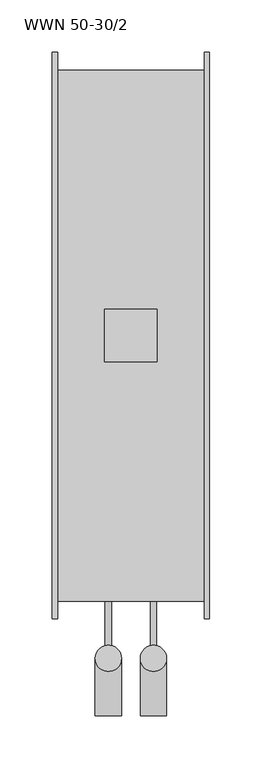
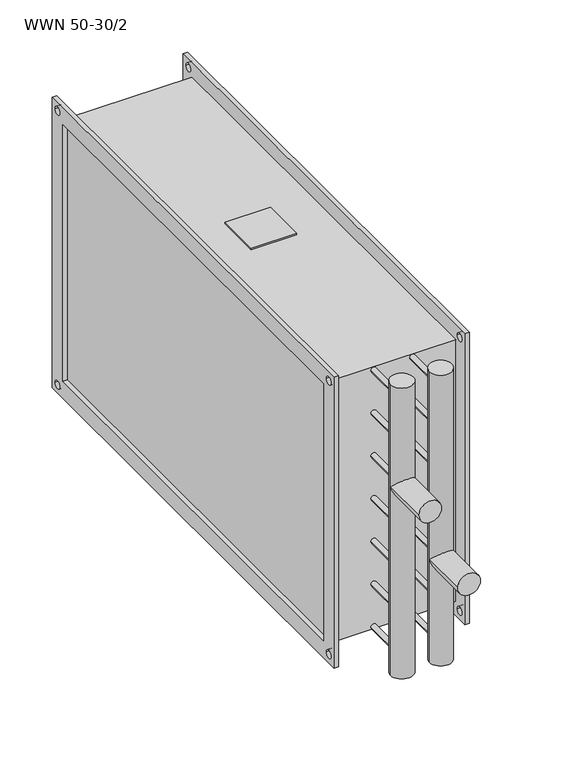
"""IFC4 building model written with IfcOpenShell, lengths in millimetres: proxy geometry, KORF_Нагреватель_Водяной_WWN : WWN 50-30/2."""

from ifc_helpers import new_model, si_unit, point, frame, frame_2d, origin, place, context, project, spatial, polyline, circle_curve, ellipse_curve, trimmed, segment, composite_curve, outline, extrude, source, transform, mapped, element, save
from ifc_brep_helpers import plane_surface, cylinder_surface, advanced_brep


def wwn_50_30_2_9f387721(model_context):
    return source(origin(), model_context, "Body", "SolidModel", [
        extrude(outline(polyline([(50.0, -25.0), (50.0, 25.0), (100.0, 25.0), (100.0, -25.0), (50.0, -25.0)])), frame((0.0, 0.0, 153.0), z_axis=(0.0, 0.0, 1.0), x_axis=(1.0, 0.0, 0.0)), (0.0, 0.0, 1.0), 2.0),
        extrude(outline(polyline([(-270.0, 170.0), (270.0, 170.0), (270.0, -170.0), (-270.0, -170.0), (-270.0, 170.0)]), holes=[polyline([(-250.0, 150.0), (-250.0, -150.0), (250.0, -150.0), (250.0, 150.0), (-250.0, 150.0)]), composite_curve([segment(trimmed(circle_curve(frame_2d((260.0, 160.0)), 4.5), [point((255.5, 160.0))], [point((264.5, 160.0))], True, "CARTESIAN"), True, "CONTINUOUS"), segment(trimmed(circle_curve(frame_2d((260.0, 160.0)), 4.5), [point((264.5, 160.0))], [point((255.5, 160.0))], True, "CARTESIAN"), True, "CONTINUOUS")], self_intersect=False), composite_curve([segment(trimmed(circle_curve(frame_2d((-260.0, 160.0)), 4.5), [point((-264.5, 160.0))], [point((-255.5, 160.0))], True, "CARTESIAN"), True, "CONTINUOUS"), segment(trimmed(circle_curve(frame_2d((-260.0, 160.0)), 4.5), [point((-255.5, 160.0))], [point((-264.5, 160.0))], True, "CARTESIAN"), True, "CONTINUOUS")], self_intersect=False), composite_curve([segment(trimmed(circle_curve(frame_2d((-260.0, -160.0)), 4.5), [point((-264.5, -160.0))], [point((-255.5, -160.0))], True, "CARTESIAN"), True, "CONTINUOUS"), segment(trimmed(circle_curve(frame_2d((-260.0, -160.0)), 4.5), [point((-255.5, -160.0))], [point((-264.5, -160.0))], True, "CARTESIAN"), True, "CONTINUOUS")], self_intersect=False), composite_curve([segment(trimmed(circle_curve(frame_2d((260.0, -160.0)), 4.5), [point((255.5, -160.0))], [point((264.5, -160.0))], True, "CARTESIAN"), True, "CONTINUOUS"), segment(trimmed(circle_curve(frame_2d((260.0, -160.0)), 4.5), [point((264.5, -160.0))], [point((255.5, -160.0))], True, "CARTESIAN"), True, "CONTINUOUS")], self_intersect=False)]), frame((145.0, 0.0, 0.0), z_axis=(1.0, 0.0, 0.0), x_axis=(0.0, 1.0, 0.0)), (0.0, 0.0, 1.0), 5.0),
        extrude(outline(polyline([(-270.0, 170.0), (270.0, 170.0), (270.0, -170.0), (-270.0, -170.0), (-270.0, 170.0)]), holes=[polyline([(-250.0, 150.0), (-250.0, -150.0), (250.0, -150.0), (250.0, 150.0), (-250.0, 150.0)]), composite_curve([segment(trimmed(circle_curve(frame_2d((260.0, 160.0)), 4.5), [point((255.5, 160.0))], [point((264.5, 160.0))], True, "CARTESIAN"), True, "CONTINUOUS"), segment(trimmed(circle_curve(frame_2d((260.0, 160.0)), 4.5), [point((264.5, 160.0))], [point((255.5, 160.0))], True, "CARTESIAN"), True, "CONTINUOUS")], self_intersect=False), composite_curve([segment(trimmed(circle_curve(frame_2d((-260.0, 160.0)), 4.5), [point((-264.5, 160.0))], [point((-255.5, 160.0))], True, "CARTESIAN"), True, "CONTINUOUS"), segment(trimmed(circle_curve(frame_2d((-260.0, 160.0)), 4.5), [point((-255.5, 160.0))], [point((-264.5, 160.0))], True, "CARTESIAN"), True, "CONTINUOUS")], self_intersect=False), composite_curve([segment(trimmed(circle_curve(frame_2d((-260.0, -160.0)), 4.5), [point((-264.5, -160.0))], [point((-255.5, -160.0))], True, "CARTESIAN"), True, "CONTINUOUS"), segment(trimmed(circle_curve(frame_2d((-260.0, -160.0)), 4.5), [point((-255.5, -160.0))], [point((-264.5, -160.0))], True, "CARTESIAN"), True, "CONTINUOUS")], self_intersect=False), composite_curve([segment(trimmed(circle_curve(frame_2d((260.0, -160.0)), 4.5), [point((255.5, -160.0))], [point((264.5, -160.0))], True, "CARTESIAN"), True, "CONTINUOUS"), segment(trimmed(circle_curve(frame_2d((260.0, -160.0)), 4.5), [point((264.5, -160.0))], [point((255.5, -160.0))], True, "CARTESIAN"), True, "CONTINUOUS")], self_intersect=False)]), frame((0.0, 0.0, 0.0), z_axis=(1.0, 0.0, 0.0), x_axis=(0.0, 1.0, 0.0)), (0.0, 0.0, 1.0), 5.0),
        extrude(outline(polyline([(145.0, 253.0), (145.0, -253.0), (5.0, -253.0), (5.0, 253.0), (145.0, 253.0)])), frame((0.0, 0.0, -153.0), z_axis=(0.0, 0.0, 1.0), x_axis=(1.0, 0.0, 0.0)), (0.0, 0.0, 1.0), 306.0),
        advanced_brep(
        [(41.0, -362.0, 50.0), (66.0, -362.0, 50.0), (41.0, -307.5, 50.0), (66.0, -307.5, 50.0), (41.0, -307.5, 170.0), (66.0, -307.5, 170.0), (41.0, -307.5, -170.0), (66.0, -307.5, -170.0)],
        [
            (0, 1, circle_curve(frame((53.5, -362.0, 50.0), z_axis=(0.0, -1.0, 0.0), x_axis=(1.0, 0.0, 0.0)), 12.5)),
            (1, 0, circle_curve(frame((53.5, -362.0, 50.0), z_axis=(0.0, -1.0, 0.0), x_axis=(1.0, 0.0, 0.0)), 12.5)),
            (0, 2),
            (2, 3, ellipse_curve(frame((53.5, -307.5, 50.0), z_axis=(0.0, -0.7071067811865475, 0.7071067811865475), x_axis=(0.0, -0.7071067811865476, -0.7071067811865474)), 17.6776695, 12.5)),
            (3, 1),
            (3, 2, ellipse_curve(frame((53.5, -307.5, 50.0), z_axis=(0.0, -0.7071067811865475, -0.7071067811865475), x_axis=(0.0, -0.7071067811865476, 0.7071067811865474)), 17.6776695, 12.5)),
            (4, 5, circle_curve(frame((53.5, -307.5, 170.0), z_axis=(0.0, 0.0, 1.0), x_axis=(1.0, 0.0, 0.0)), 12.5)),
            (5, 4, circle_curve(frame((53.5, -307.5, 170.0), z_axis=(0.0, 0.0, 1.0), x_axis=(1.0, 0.0, 0.0)), 12.5)),
            (6, 7, circle_curve(frame((53.5, -307.5, -170.0), z_axis=(0.0, 0.0, -1.0), x_axis=(1.0, 0.0, 0.0)), 12.5)),
            (7, 6, circle_curve(frame((53.5, -307.5, -170.0), z_axis=(0.0, 0.0, -1.0), x_axis=(1.0, 0.0, 0.0)), 12.5)),
            (4, 2),
            (3, 5),
            (7, 3),
            (2, 6),
        ],
        [
            plane_surface(frame((66.0, -362.0, 50.0), z_axis=(0.0, -1.0, 0.0), x_axis=(0.0, 0.0, 1.0))),
            cylinder_surface(frame((53.5, -307.5, 50.0), z_axis=(0.0, -1.0, 0.0), x_axis=(1.0, 0.0, 0.0)), 12.5),
            plane_surface(frame((66.0, -307.5, 170.0), z_axis=(0.0, 0.0, 1.0), x_axis=(0.0, 1.0, 0.0))),
            plane_surface(frame((66.0, -307.5, -170.0), z_axis=(0.0, 0.0, -1.0), x_axis=(0.0, -1.0, 0.0))),
            cylinder_surface(frame((53.5, -307.5, -170.0), z_axis=(0.0, 0.0, 1.0), x_axis=(1.0, 0.0, 0.0)), 12.5),
        ],
        [
            (0, [[1, 2]]),
            (1, [[-1, 3, 4, 5]]),
            (1, [[-2, -5, 6, -3]]),
            (2, [[7, 8]]),
            (3, [[9, 10]]),
            (4, [[-7, 11, -6, 12]]),
            (4, [[-10, 13, -4, 14]]),
            (4, [[-8, -12, -13, -9, -14, -11]]),
        ],
    ),
        advanced_brep(
        [(84.0, -362.0, -50.0), (109.0, -362.0, -50.0), (84.0, -307.5, -50.0), (109.0, -307.5, -50.0), (84.0, -307.5, 170.0), (109.0, -307.5, 170.0), (84.0, -307.5, -170.0), (109.0, -307.5, -170.0)],
        [
            (0, 1, circle_curve(frame((96.5, -362.0, -50.0), z_axis=(0.0, -1.0, 0.0), x_axis=(1.0, 0.0, 0.0)), 12.5)),
            (1, 0, circle_curve(frame((96.5, -362.0, -50.0), z_axis=(0.0, -1.0, 0.0), x_axis=(1.0, 0.0, 0.0)), 12.5)),
            (0, 2),
            (2, 3, ellipse_curve(frame((96.5, -307.5, -50.0), z_axis=(0.0, -0.7071067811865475, 0.7071067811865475), x_axis=(0.0, -0.7071067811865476, -0.7071067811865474)), 17.6776695, 12.5)),
            (3, 1),
            (3, 2, ellipse_curve(frame((96.5, -307.5, -50.0), z_axis=(0.0, -0.7071067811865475, -0.7071067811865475), x_axis=(0.0, -0.7071067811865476, 0.7071067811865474)), 17.6776695, 12.5)),
            (4, 5, circle_curve(frame((96.5, -307.5, 170.0), z_axis=(0.0, 0.0, 1.0), x_axis=(1.0, 0.0, 0.0)), 12.5)),
            (5, 4, circle_curve(frame((96.5, -307.5, 170.0), z_axis=(0.0, 0.0, 1.0), x_axis=(1.0, 0.0, 0.0)), 12.5)),
            (6, 7, circle_curve(frame((96.5, -307.5, -170.0), z_axis=(0.0, 0.0, -1.0), x_axis=(1.0, 0.0, 0.0)), 12.5)),
            (7, 6, circle_curve(frame((96.5, -307.5, -170.0), z_axis=(0.0, 0.0, -1.0), x_axis=(1.0, 0.0, 0.0)), 12.5)),
            (4, 2),
            (3, 5),
            (7, 3),
            (2, 6),
        ],
        [
            plane_surface(frame((66.0, -362.0, 50.0), z_axis=(0.0, -1.0, 0.0), x_axis=(0.0, 0.0, 1.0))),
            cylinder_surface(frame((96.5, 0.0, -50.0), z_axis=(0.0, -1.0, 0.0), x_axis=(1.0, 0.0, 0.0)), 12.5),
            plane_surface(frame((66.0, -307.5, 170.0), z_axis=(0.0, 0.0, 1.0), x_axis=(0.0, 1.0, 0.0))),
            plane_surface(frame((66.0, -307.5, -170.0), z_axis=(0.0, 0.0, -1.0), x_axis=(0.0, -1.0, 0.0))),
            cylinder_surface(frame((96.5, -307.5, 0.0), z_axis=(0.0, 0.0, 1.0), x_axis=(1.0, 0.0, 0.0)), 12.5),
        ],
        [
            (0, [[1, 2]]),
            (1, [[-1, 3, 4, 5]]),
            (1, [[-2, -5, 6, -3]]),
            (2, [[7, 8]]),
            (3, [[9, 10]]),
            (4, [[-7, 11, -6, 12]]),
            (4, [[-10, 13, -4, 14]]),
            (4, [[-8, -12, -13, -9, -14, -11]]),
        ],
    ),
        extrude(outline(composite_curve([segment(trimmed(circle_curve(frame_2d((150.0, 53.5)), 3.0), [point((150.0, 50.5))], [point((150.0, 56.5))], False, "CARTESIAN"), True, "CONTINUOUS"), segment(trimmed(circle_curve(frame_2d((150.0, 53.5)), 3.0), [point((150.0, 56.5))], [point((150.0, 50.5))], False, "CARTESIAN"), True, "CONTINUOUS")], self_intersect=False)), frame((0.0, -307.5, 0.0), z_axis=(0.0, 1.0, 0.0), x_axis=(0.0, 0.0, 1.0)), (0.0, 0.0, 1.0), 54.5),
        extrude(outline(composite_curve([segment(trimmed(circle_curve(frame_2d((100.0, 53.5)), 3.0), [point((100.0, 50.5))], [point((100.0, 56.5))], False, "CARTESIAN"), True, "CONTINUOUS"), segment(trimmed(circle_curve(frame_2d((100.0, 53.5)), 3.0), [point((100.0, 56.5))], [point((100.0, 50.5))], False, "CARTESIAN"), True, "CONTINUOUS")], self_intersect=False)), frame((0.0, -307.5, 0.0), z_axis=(0.0, 1.0, 0.0), x_axis=(0.0, 0.0, 1.0)), (0.0, 0.0, 1.0), 54.5),
        extrude(outline(composite_curve([segment(trimmed(circle_curve(frame_2d((50.0, 53.5)), 3.0), [point((50.0, 50.5))], [point((50.0, 56.5))], False, "CARTESIAN"), True, "CONTINUOUS"), segment(trimmed(circle_curve(frame_2d((50.0, 53.5)), 3.0), [point((50.0, 56.5))], [point((50.0, 50.5))], False, "CARTESIAN"), True, "CONTINUOUS")], self_intersect=False)), frame((0.0, -307.5, 0.0), z_axis=(0.0, 1.0, 0.0), x_axis=(0.0, 0.0, 1.0)), (0.0, 0.0, 1.0), 54.5),
        extrude(outline(composite_curve([segment(trimmed(circle_curve(frame_2d((0.0, 53.5)), 3.0), [point((0.0, 50.5))], [point((0.0, 56.5))], False, "CARTESIAN"), True, "CONTINUOUS"), segment(trimmed(circle_curve(frame_2d((0.0, 53.5)), 3.0), [point((0.0, 56.5))], [point((0.0, 50.5))], False, "CARTESIAN"), True, "CONTINUOUS")], self_intersect=False)), frame((0.0, -307.5, 0.0), z_axis=(0.0, 1.0, 0.0), x_axis=(0.0, 0.0, 1.0)), (0.0, 0.0, 1.0), 54.5),
        extrude(outline(composite_curve([segment(trimmed(circle_curve(frame_2d((-50.0, 53.5)), 3.0), [point((-50.0, 50.5))], [point((-50.0, 56.5))], False, "CARTESIAN"), True, "CONTINUOUS"), segment(trimmed(circle_curve(frame_2d((-50.0, 53.5)), 3.0), [point((-50.0, 56.5))], [point((-50.0, 50.5))], False, "CARTESIAN"), True, "CONTINUOUS")], self_intersect=False)), frame((0.0, -307.5, 0.0), z_axis=(0.0, 1.0, 0.0), x_axis=(0.0, 0.0, 1.0)), (0.0, 0.0, 1.0), 54.5),
        extrude(outline(composite_curve([segment(trimmed(circle_curve(frame_2d((-100.0, 53.5)), 3.0), [point((-100.0, 50.5))], [point((-100.0, 56.5))], False, "CARTESIAN"), True, "CONTINUOUS"), segment(trimmed(circle_curve(frame_2d((-100.0, 53.5)), 3.0), [point((-100.0, 56.5))], [point((-100.0, 50.5))], False, "CARTESIAN"), True, "CONTINUOUS")], self_intersect=False)), frame((0.0, -307.5, 0.0), z_axis=(0.0, 1.0, 0.0), x_axis=(0.0, 0.0, 1.0)), (0.0, 0.0, 1.0), 54.5),
        extrude(outline(composite_curve([segment(trimmed(circle_curve(frame_2d((-100.0, 96.5)), 3.0), [point((-100.0, 93.5))], [point((-100.0, 99.5))], False, "CARTESIAN"), True, "CONTINUOUS"), segment(trimmed(circle_curve(frame_2d((-100.0, 96.5)), 3.0), [point((-100.0, 99.5))], [point((-100.0, 93.5))], False, "CARTESIAN"), True, "CONTINUOUS")], self_intersect=False)), frame((0.0, -307.5, 0.0), z_axis=(0.0, 1.0, 0.0), x_axis=(0.0, 0.0, 1.0)), (0.0, 0.0, 1.0), 54.5),
        extrude(outline(composite_curve([segment(trimmed(circle_curve(frame_2d((-50.0, 96.5)), 3.0), [point((-50.0, 93.5))], [point((-50.0, 99.5))], False, "CARTESIAN"), True, "CONTINUOUS"), segment(trimmed(circle_curve(frame_2d((-50.0, 96.5)), 3.0), [point((-50.0, 99.5))], [point((-50.0, 93.5))], False, "CARTESIAN"), True, "CONTINUOUS")], self_intersect=False)), frame((0.0, -307.5, 0.0), z_axis=(0.0, 1.0, 0.0), x_axis=(0.0, 0.0, 1.0)), (0.0, 0.0, 1.0), 54.5),
        extrude(outline(composite_curve([segment(trimmed(circle_curve(frame_2d((0.0, 96.5)), 3.0), [point((0.0, 93.5))], [point((0.0, 99.5))], False, "CARTESIAN"), True, "CONTINUOUS"), segment(trimmed(circle_curve(frame_2d((0.0, 96.5)), 3.0), [point((0.0, 99.5))], [point((0.0, 93.5))], False, "CARTESIAN"), True, "CONTINUOUS")], self_intersect=False)), frame((0.0, -307.5, 0.0), z_axis=(0.0, 1.0, 0.0), x_axis=(0.0, 0.0, 1.0)), (0.0, 0.0, 1.0), 54.5),
        extrude(outline(composite_curve([segment(trimmed(circle_curve(frame_2d((50.0, 96.5)), 3.0), [point((50.0, 93.5))], [point((50.0, 99.5))], False, "CARTESIAN"), True, "CONTINUOUS"), segment(trimmed(circle_curve(frame_2d((50.0, 96.5)), 3.0), [point((50.0, 99.5))], [point((50.0, 93.5))], False, "CARTESIAN"), True, "CONTINUOUS")], self_intersect=False)), frame((0.0, -307.5, 0.0), z_axis=(0.0, 1.0, 0.0), x_axis=(0.0, 0.0, 1.0)), (0.0, 0.0, 1.0), 54.5),
        extrude(outline(composite_curve([segment(trimmed(circle_curve(frame_2d((100.0, 96.5)), 3.0), [point((100.0, 93.5))], [point((100.0, 99.5))], False, "CARTESIAN"), True, "CONTINUOUS"), segment(trimmed(circle_curve(frame_2d((100.0, 96.5)), 3.0), [point((100.0, 99.5))], [point((100.0, 93.5))], False, "CARTESIAN"), True, "CONTINUOUS")], self_intersect=False)), frame((0.0, -307.5, 0.0), z_axis=(0.0, 1.0, 0.0), x_axis=(0.0, 0.0, 1.0)), (0.0, 0.0, 1.0), 54.5),
        extrude(outline(composite_curve([segment(trimmed(circle_curve(frame_2d((150.0, 96.5)), 3.0), [point((150.0, 93.5))], [point((150.0, 99.5))], False, "CARTESIAN"), True, "CONTINUOUS"), segment(trimmed(circle_curve(frame_2d((150.0, 96.5)), 3.0), [point((150.0, 99.5))], [point((150.0, 93.5))], False, "CARTESIAN"), True, "CONTINUOUS")], self_intersect=False)), frame((0.0, -307.5, 0.0), z_axis=(0.0, 1.0, 0.0), x_axis=(0.0, 0.0, 1.0)), (0.0, 0.0, 1.0), 54.5),
        extrude(outline(composite_curve([segment(trimmed(circle_curve(frame_2d((-150.0, 53.5)), 3.0), [point((-150.0, 50.5))], [point((-150.0, 56.5))], False, "CARTESIAN"), True, "CONTINUOUS"), segment(trimmed(circle_curve(frame_2d((-150.0, 53.5)), 3.0), [point((-150.0, 56.5))], [point((-150.0, 50.5))], False, "CARTESIAN"), True, "CONTINUOUS")], self_intersect=False)), frame((0.0, -307.5, 0.0), z_axis=(0.0, 1.0, 0.0), x_axis=(0.0, 0.0, 1.0)), (0.0, 0.0, 1.0), 54.5),
        extrude(outline(composite_curve([segment(trimmed(circle_curve(frame_2d((-150.0, 96.5)), 3.0), [point((-150.0, 93.5))], [point((-150.0, 99.5))], False, "CARTESIAN"), True, "CONTINUOUS"), segment(trimmed(circle_curve(frame_2d((-150.0, 96.5)), 3.0), [point((-150.0, 99.5))], [point((-150.0, 93.5))], False, "CARTESIAN"), True, "CONTINUOUS")], self_intersect=False)), frame((0.0, -307.5, 0.0), z_axis=(0.0, 1.0, 0.0), x_axis=(0.0, 0.0, 1.0)), (0.0, 0.0, 1.0), 54.5),
    ])


if __name__ == "__main__":
    model = new_model("IFC4")
    model_context = context("Model", 3, world=origin())
    ifc_project = project(units=[si_unit("LENGTHUNIT", "METRE", prefix="MILLI")], contexts=[model_context])
    site = spatial("IfcSite", under=ifc_project)
    building = spatial("IfcBuilding", under=site)
    placement = place(None, origin())
    wwn_50_30_2_shape = wwn_50_30_2_9f387721(model_context)
    element("IfcBuildingElementProxy", 1, Name="KORF_Нагреватель_Водяной_WWN : WWN 50-30/2", ObjectType="KORF_Нагреватель_Водяной_WWN : WWN 50-30/2", at=placement, inside=building, context=model_context, shape_type="MappedRepresentation", body=[
        mapped(wwn_50_30_2_shape, transform((0.0, 0.0, 0.0), x_axis=(1.0, 0.0, 0.0), y_axis=(0.0, 1.0, 0.0), z_axis=(0.0, 0.0, 1.0))),
    ])
    save(model, "model.ifc")
